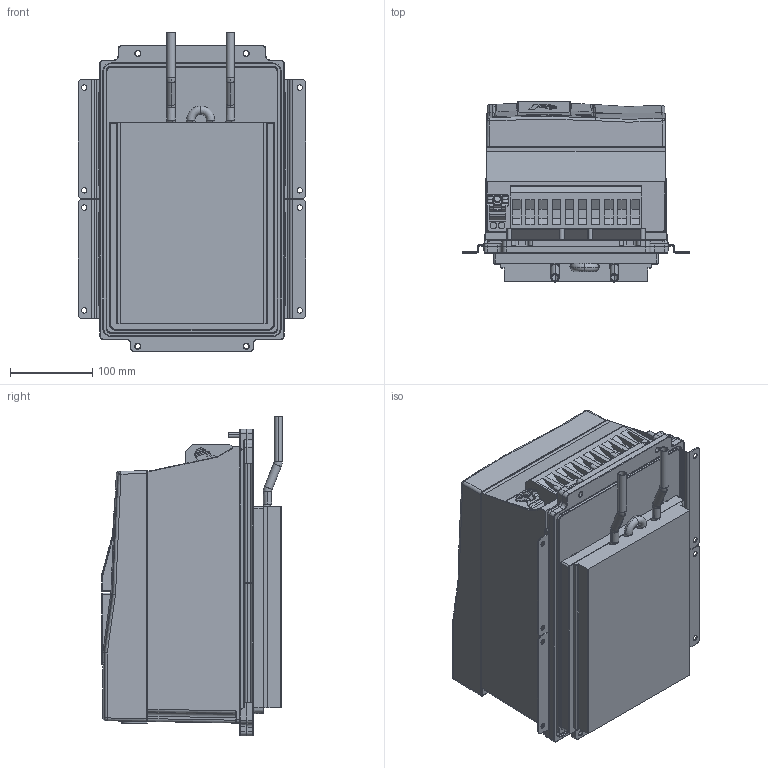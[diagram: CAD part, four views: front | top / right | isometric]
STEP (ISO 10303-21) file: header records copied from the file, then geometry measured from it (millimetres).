
FILE_DESCRIPTION (( 'STEP AP214' ), '1' );
FILE_NAME ('F6-4TW5-P150.STEP', '2020-12-10T07:52:38', ( '' ), ( '' ), 'SwSTEP 2.0', 'SolidWorks 2019', '' );
FILE_SCHEMA (( 'AUTOMOTIVE_DESIGN' ));
Length unit declared in the file: millimetre
Products named in the file (11): 10059762_000_Kundenmodell mit Geberbuchsen; 10059764_000_Blindabdeckung (Kundenmodell); 10051076_000_Kundenmodell; 10061644_000_Deckel (Kundenmodell); 10045826_000_Basis Leistungsteil TW5 (Kundenmodell); F6-4TW5-P150; 10061645_000; 10059765_000; 10061790_000; 10058448_000; 10032600_000_Kundenmodell
Assembly tree (10 placements, depth 4):
  F6-4TW5-P150
    10045826_000_Basis Leistungsteil TW5 (Kundenmodell)
      10061790_000
    10032600_000_Kundenmodell
      10061644_000_Deckel (Kundenmodell)
        10061645_000
      10058448_000
    10051076_000_Kundenmodell
      10059764_000_Blindabdeckung (Kundenmodell)
        10059765_000
      10059762_000_Kundenmodell mit Geberbuchsen
Bounding box: 277 x 219.7 x 389 mm (x, y, z)
Volume: 14021499.2 mm3; surface area: 858114.9 mm2
Topology: 11 solids, 28 shells, 2631 faces, 6941 edges, 4385 vertices
Faces by surface type: plane 1093, cylinder 664, bspline 546, torus 179, cone 109, sphere 40
Entity records: 103512 total; most frequent: CARTESIAN_POINT 41808, ORIENTED_EDGE 13756, DIRECTION 11284, EDGE_CURVE 6878, VERTEX_POINT 4383, AXIS2_PLACEMENT_3D 3783, LINE 3718, VECTOR 3718
